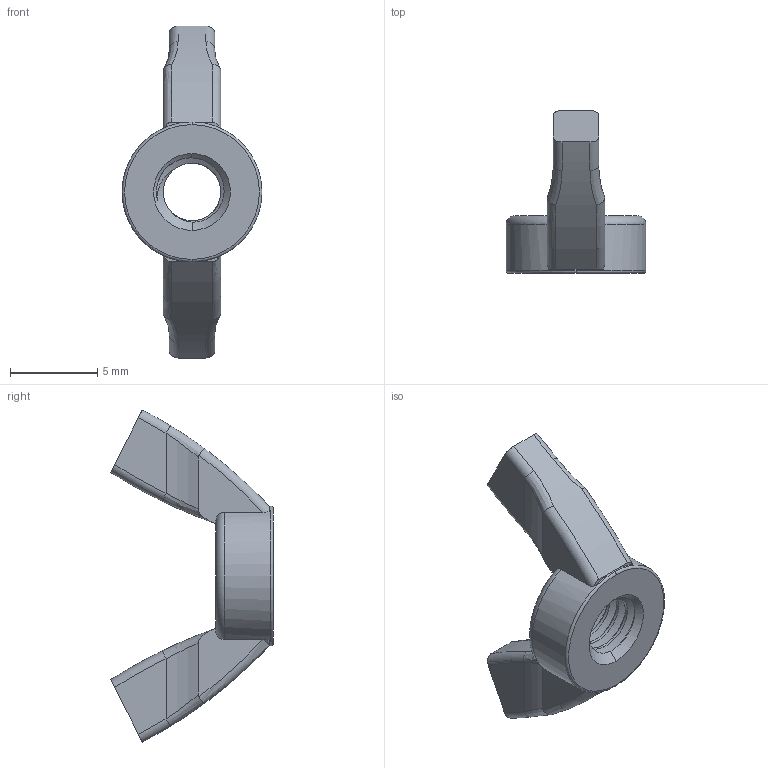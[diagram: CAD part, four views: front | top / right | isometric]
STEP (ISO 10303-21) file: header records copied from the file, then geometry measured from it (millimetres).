
FILE_DESCRIPTION (( 'STEP AP203' ), '1' );
FILE_NAME ('TANC-304-M4.STEP', '2026-08-24T08:20:54', ( '' ), ( '' ), 'SwSTEP 2.0', 'SolidWorks 2020', '' );
FILE_SCHEMA (( 'CONFIG_CONTROL_DESIGN' ));
Length unit declared in the file: millimetre
Products named in the file (1): TANC-304-M4
Bounding box: 8 x 9.3 x 19 mm (x, y, z)
Volume: 284.5 mm3; surface area: 398 mm2
Topology: 1 solids, 1 shells, 66 faces, 177 edges, 113 vertices
Faces by surface type: cylinder 18, torus 16, plane 16, bspline 11, cone 5
Entity records: 3932 total; most frequent: CARTESIAN_POINT 2355, ORIENTED_EDGE 354, DIRECTION 270, EDGE_CURVE 177, AXIS2_PLACEMENT_3D 113, VERTEX_POINT 113, EDGE_LOOP 68, B_SPLINE_CURVE_WITH_KNOTS 67
